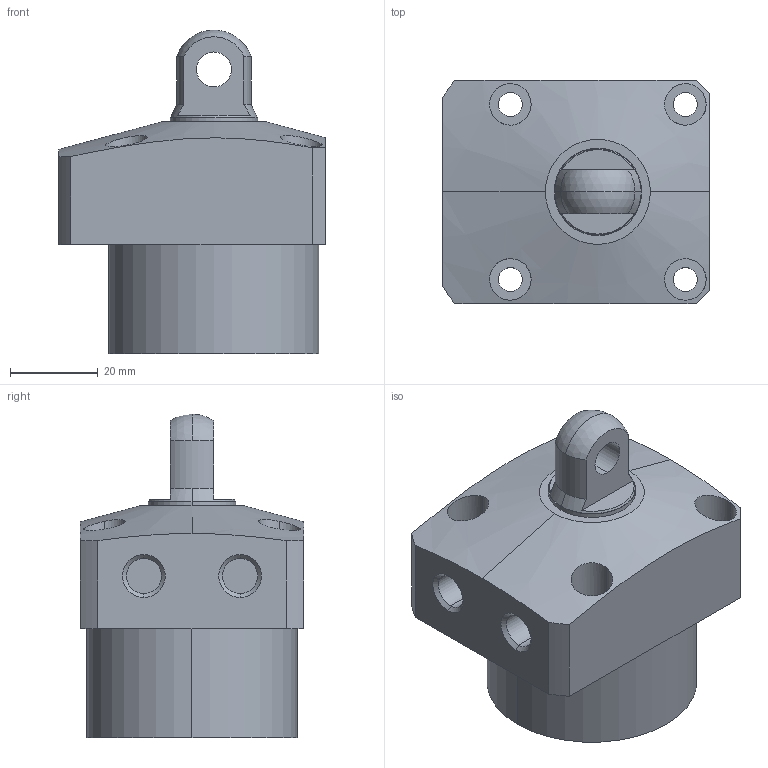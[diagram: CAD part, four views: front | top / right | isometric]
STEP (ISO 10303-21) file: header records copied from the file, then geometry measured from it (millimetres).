
FILE_DESCRIPTION (( 'STEP AP203' ), '1' );
FILE_NAME ('CLL-048CP-015.STEP', '2019-12-20T02:38:59', ( '' ), ( '' ), 'SwSTEP 2.0', 'SolidWorks 2015', '' );
FILE_SCHEMA (( 'CONFIG_CONTROL_DESIGN' ));
Length unit declared in the file: millimetre
Products named in the file (1): CLL-048CP-015
Bounding box: 61 x 51 x 74 mm (x, y, z)
Volume: 120981.8 mm3; surface area: 18421.7 mm2
Topology: 1 solids, 1 shells, 67 faces, 157 edges, 103 vertices
Faces by surface type: cylinder 35, plane 22, cone 8, sphere 2
Entity records: 2360 total; most frequent: CARTESIAN_POINT 682, DIRECTION 351, ORIENTED_EDGE 314, EDGE_CURVE 157, AXIS2_PLACEMENT_3D 146, VERTEX_POINT 103, EDGE_LOOP 88, CIRCLE 78
